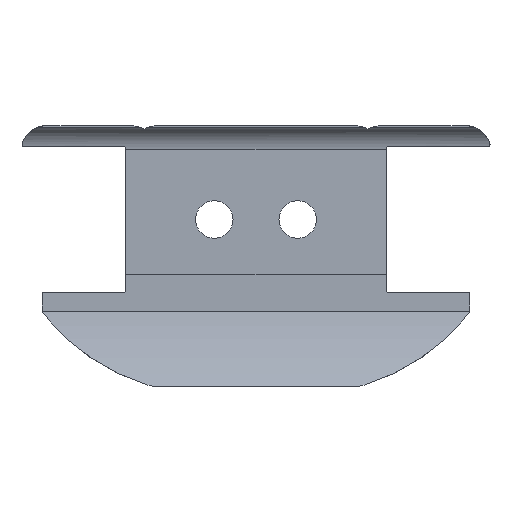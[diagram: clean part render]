
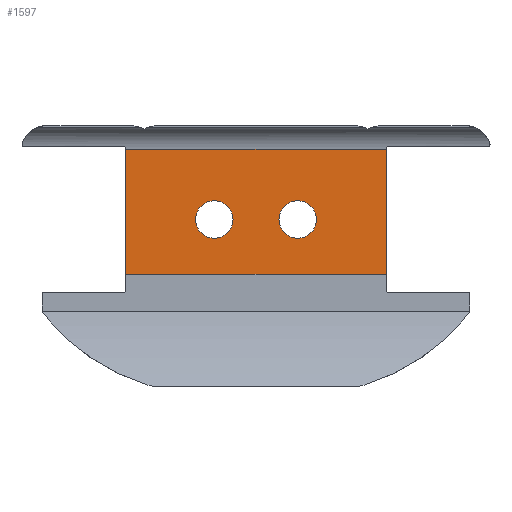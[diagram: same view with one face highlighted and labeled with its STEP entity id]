
A CAD part, front view. The second image highlights one B-rep face of the part: STEP entity #1597.
In plain terms, the highlighted planar face has unit normal (0, -1, 0) as drawn and (-1, 0, 0) by its records, which use the part's own axes.
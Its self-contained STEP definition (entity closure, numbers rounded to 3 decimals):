
#48 = VERTEX_POINT ( 'NONE', #231 ) ;
#97 = DIRECTION ( 'NONE',  ( 1., 0., 0. ) ) ;
#114 = DIRECTION ( 'NONE',  ( 0., 0., 1. ) ) ;
#125 = ORIENTED_EDGE ( 'NONE', *, *, #674, .F. ) ;
#135 = VERTEX_POINT ( 'NONE', #877 ) ;
#144 = DIRECTION ( 'NONE',  ( -1., 0., 0. ) ) ;
#146 = EDGE_CURVE ( 'NONE', #1537, #1537, #1220, .T. ) ;
#167 = ORIENTED_EDGE ( 'NONE', *, *, #1892, .F. ) ;
#178 = VECTOR ( 'NONE', #650, 1000. ) ;
#231 = CARTESIAN_POINT ( 'NONE',  ( -13., 12.5, -10.25 ) ) ;
#248 = FACE_BOUND ( 'NONE', #527, .T. ) ;
#255 = ORIENTED_EDGE ( 'NONE', *, *, #1548, .T. ) ;
#260 = EDGE_CURVE ( 'NONE', #268, #48, #493, .T. ) ;
#265 = CARTESIAN_POINT ( 'NONE',  ( -13., -12.5, 3.5 ) ) ;
#268 = VERTEX_POINT ( 'NONE', #1397 ) ;
#272 = FACE_BOUND ( 'NONE', #806, .T. ) ;
#307 = LINE ( 'NONE', #265, #362 ) ;
#362 = VECTOR ( 'NONE', #1363, 1000. ) ;
#411 = CARTESIAN_POINT ( 'NONE',  ( -13., 22.5, -10.25 ) ) ;
#443 = DIRECTION ( 'NONE',  ( 1., 0., 0. ) ) ;
#493 = LINE ( 'NONE', #591, #178 ) ;
#495 = ORIENTED_EDGE ( 'NONE', *, *, #260, .T. ) ;
#527 = EDGE_LOOP ( 'NONE', ( #569 ) ) ;
#565 = AXIS2_PLACEMENT_3D ( 'NONE', #575, #144, #1205 ) ;
#569 = ORIENTED_EDGE ( 'NONE', *, *, #146, .T. ) ;
#575 = CARTESIAN_POINT ( 'NONE',  ( -13., 4., -3.5 ) ) ;
#591 = CARTESIAN_POINT ( 'NONE',  ( -13., 12.5, 3.5 ) ) ;
#650 = DIRECTION ( 'NONE',  ( 0., 0., -1. ) ) ;
#674 = EDGE_CURVE ( 'NONE', #135, #135, #1558, .T. ) ;
#721 = CARTESIAN_POINT ( 'NONE',  ( -13., 22.5, 1.75 ) ) ;
#750 = CARTESIAN_POINT ( 'NONE',  ( -13., -12.5, 1.75 ) ) ;
#806 = EDGE_LOOP ( 'NONE', ( #125 ) ) ;
#858 = CARTESIAN_POINT ( 'NONE',  ( -13., 22.5, 1.75 ) ) ;
#877 = CARTESIAN_POINT ( 'NONE',  ( -13., 4., -1.7 ) ) ;
#1006 = DIRECTION ( 'NONE',  ( 0., -1., 0. ) ) ;
#1154 = VERTEX_POINT ( 'NONE', #750 ) ;
#1177 = VECTOR ( 'NONE', #1006, 1000. ) ;
#1182 = VECTOR ( 'NONE', #1654, 1000. ) ;
#1205 = DIRECTION ( 'NONE',  ( 0., 0., 1. ) ) ;
#1220 = CIRCLE ( 'NONE', #1483, 1.8 ) ;
#1223 = EDGE_LOOP ( 'NONE', ( #1810, #167, #495, #255 ) ) ;
#1342 = CARTESIAN_POINT ( 'NONE',  ( -13., -12.5, -10.25 ) ) ;
#1357 = DIRECTION ( 'NONE',  ( 0., 0., -1. ) ) ;
#1363 = DIRECTION ( 'NONE',  ( 0., 0., -1. ) ) ;
#1397 = CARTESIAN_POINT ( 'NONE',  ( -13., 12.5, 1.75 ) ) ;
#1470 = VERTEX_POINT ( 'NONE', #1342 ) ;
#1483 = AXIS2_PLACEMENT_3D ( 'NONE', #1545, #443, #114 ) ;
#1509 = PLANE ( 'NONE',  #1897 ) ;
#1537 = VERTEX_POINT ( 'NONE', #1819 ) ;
#1545 = CARTESIAN_POINT ( 'NONE',  ( -13., -4., -3.5 ) ) ;
#1548 = EDGE_CURVE ( 'NONE', #48, #1470, #1794, .T. ) ;
#1558 = CIRCLE ( 'NONE', #565, 1.8 ) ;
#1597 = ADVANCED_FACE ( 'NONE', ( #272, #1657, #248 ), #1509, .F. ) ;
#1654 = DIRECTION ( 'NONE',  ( 0., -1., 0. ) ) ;
#1657 = FACE_OUTER_BOUND ( 'NONE', #1223, .T. ) ;
#1781 = LINE ( 'NONE', #858, #1182 ) ;
#1794 = LINE ( 'NONE', #411, #1177 ) ;
#1810 = ORIENTED_EDGE ( 'NONE', *, *, #2030, .F. ) ;
#1819 = CARTESIAN_POINT ( 'NONE',  ( -13., -4., -1.7 ) ) ;
#1892 = EDGE_CURVE ( 'NONE', #268, #1154, #1781, .T. ) ;
#1897 = AXIS2_PLACEMENT_3D ( 'NONE', #721, #97, #1357 ) ;
#2030 = EDGE_CURVE ( 'NONE', #1154, #1470, #307, .T. ) ;
